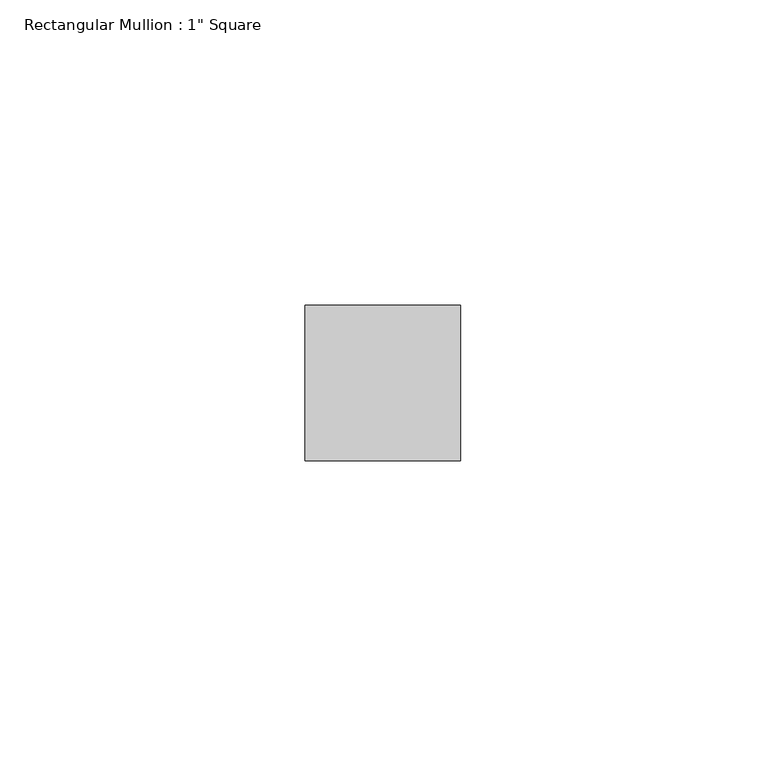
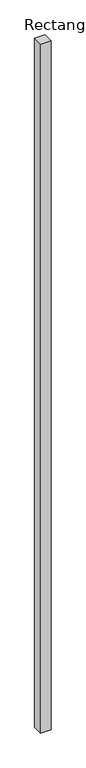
"""IFC4 building model written with IfcOpenShell, lengths in millimetres: member geometry."""

from ifc_helpers import new_model, si_unit, frame, origin, place, context, project, spatial, polyline, outline, extrude, source, transform, mapped, element, save


def member_653015da(model_context):
    return source(origin(), model_context, "Body", "SweptSolid", [
        extrude(outline(polyline([(0.0, 12.7), (0.0, -12.7), (-25.4, -12.7), (-25.4, 12.7), (0.0, 12.7)])), frame((0.0, 0.0, -1791.9), z_axis=(0.0, 0.0, 1.0), x_axis=(1.0, 0.0, 0.0)), (0.0, 0.0, 1.0), 1791.9),
    ])


if __name__ == "__main__":
    model = new_model("IFC4")
    model_context = context("Model", 3, world=origin())
    ifc_project = project(units=[si_unit("LENGTHUNIT", "METRE", prefix="MILLI")], contexts=[model_context])
    site = spatial("IfcSite", under=ifc_project)
    building = spatial("IfcBuilding", under=site)
    placement = place(None, origin())
    member_shape = member_653015da(model_context)
    element("IfcMember", 1, ObjectType="Rectangular Mullion : 1\" Square", at=placement, inside=building, context=model_context, shape_type="MappedRepresentation", body=[
        mapped(member_shape, transform((0.0, 0.0, 0.0), x_axis=(1.0, 0.0, 0.0), y_axis=(0.0, 1.0, 0.0), z_axis=(0.0, 0.0, 1.0))),
    ])
    save(model, "model.ifc")
